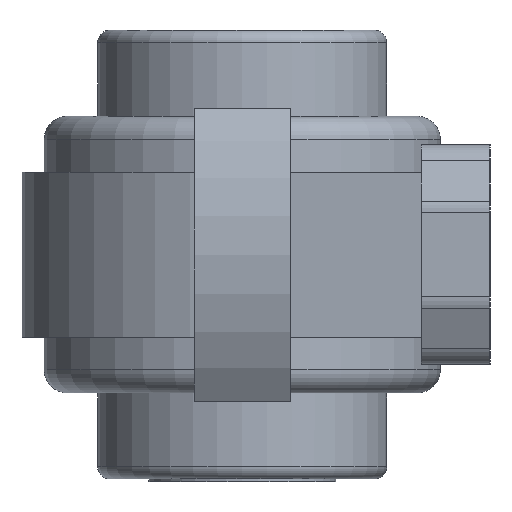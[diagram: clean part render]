
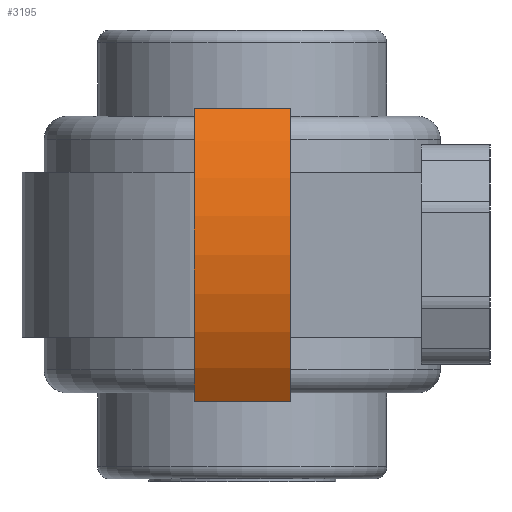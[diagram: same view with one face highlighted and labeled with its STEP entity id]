
A CAD part, left-side view. The second image highlights one B-rep face of the part: STEP entity #3195.
In plain terms, the highlighted cylindrical face has radius 18.3 mm (diameter 36.6 mm), a partial arc.
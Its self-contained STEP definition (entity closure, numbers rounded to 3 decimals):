
#3041=CARTESIAN_POINT('',(14.882,-3.5,-10.65));
#3042=VERTEX_POINT('',#3041);
#3049=CARTESIAN_POINT('',(14.882,-3.5,10.65));
#3050=VERTEX_POINT('',#3049);
#3051=CARTESIAN_POINT('',(0.0,-3.5,0.0));
#3052=DIRECTION('',(0.0,1.0,0.0));
#3053=DIRECTION('',(-0.813,0.0,-0.582));
#3054=AXIS2_PLACEMENT_3D('',#3051,#3052,#3053);
#3055=CIRCLE('',#3054,18.3);
#3056=EDGE_CURVE('',#3050,#3042,#3055,.T.);
#3152=CARTESIAN_POINT('',(14.882,3.5,-10.65));
#3153=VERTEX_POINT('',#3152);
#3160=CARTESIAN_POINT('',(14.882,3.5,-10.65));
#3161=DIRECTION('',(0.0,-1.0,0.0));
#3162=VECTOR('',#3161,7.);
#3163=LINE('',#3160,#3162);
#3164=EDGE_CURVE('',#3153,#3042,#3163,.T.);
#3171=CARTESIAN_POINT('',(0.0,0.0,0.0));
#3172=DIRECTION('',(0.0,1.0,0.0));
#3173=DIRECTION('',(-0.813,0.0,-0.582));
#3174=AXIS2_PLACEMENT_3D('',#3171,#3172,#3173);
#3175=CYLINDRICAL_SURFACE('',#3174,18.3);
#3176=CARTESIAN_POINT('',(14.882,3.5,10.65));
#3177=VERTEX_POINT('',#3176);
#3178=CARTESIAN_POINT('',(0.0,3.5,0.0));
#3179=DIRECTION('',(0.0,-1.0,0.0));
#3180=DIRECTION('',(-0.813,0.0,-0.582));
#3181=AXIS2_PLACEMENT_3D('',#3178,#3179,#3180);
#3182=CIRCLE('',#3181,18.3);
#3183=EDGE_CURVE('',#3153,#3177,#3182,.T.);
#3184=ORIENTED_EDGE('',*,*,#3183,.T.);
#3185=CARTESIAN_POINT('',(14.882,3.5,10.65));
#3186=DIRECTION('',(0.0,-1.0,0.0));
#3187=VECTOR('',#3186,7.);
#3188=LINE('',#3185,#3187);
#3189=EDGE_CURVE('',#3177,#3050,#3188,.T.);
#3190=ORIENTED_EDGE('',*,*,#3189,.T.);
#3191=ORIENTED_EDGE('',*,*,#3056,.T.);
#3192=ORIENTED_EDGE('',*,*,#3164,.F.);
#3193=EDGE_LOOP('',(#3184,#3190,#3191,#3192));
#3194=FACE_OUTER_BOUND('',#3193,.T.);
#3195=ADVANCED_FACE('',(#3194),#3175,.T.);
